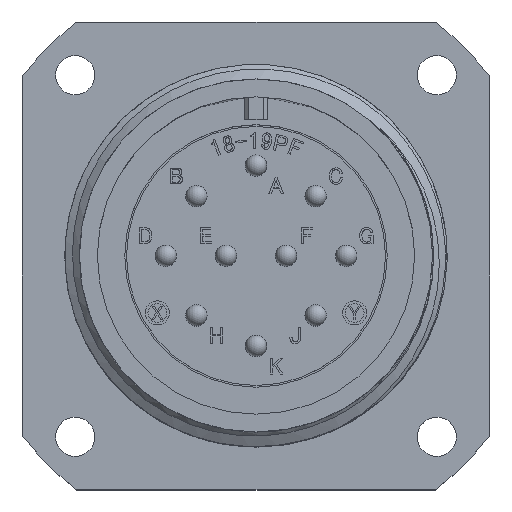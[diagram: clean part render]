
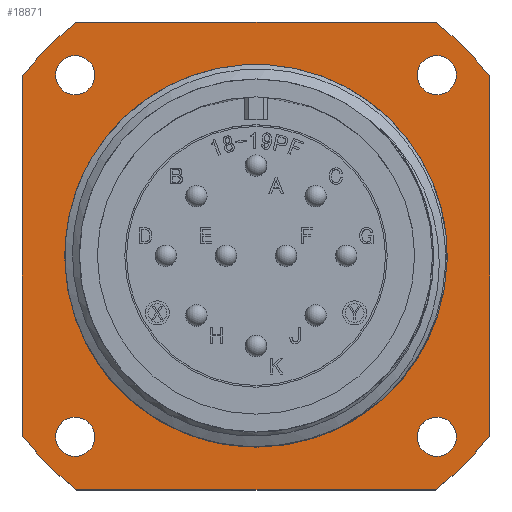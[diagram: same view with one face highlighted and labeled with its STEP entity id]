
A CAD part, top view. The second image highlights one B-rep face of the part: STEP entity #18871.
In plain terms, the highlighted planar face has unit normal (0, 0, 1).
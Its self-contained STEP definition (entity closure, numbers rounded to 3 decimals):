
#661 = CARTESIAN_POINT ( 'NONE',  ( 12.03, 13.495, -19.24 ) ) ;
#695 = CARTESIAN_POINT ( 'NONE',  ( 13.495, -13.495, -19.24 ) ) ;
#822 = FACE_BOUND ( 'NONE', #35567, .T. ) ;
#1063 = ORIENTED_EDGE ( 'NONE', *, *, #12026, .F. ) ;
#1069 = CARTESIAN_POINT ( 'NONE',  ( 0., 0., -19.24 ) ) ;
#1944 = CARTESIAN_POINT ( 'NONE',  ( 0., 0., -19.24 ) ) ;
#2231 = CIRCLE ( 'NONE', #27448, 1.465 ) ;
#2474 = CIRCLE ( 'NONE', #6882, 1.465 ) ;
#2515 = CIRCLE ( 'NONE', #18846, 1.465 ) ;
#2739 = CARTESIAN_POINT ( 'NONE',  ( 13.385, -17.46, -19.24 ) ) ;
#2758 = DIRECTION ( 'NONE',  ( 1., 0., 0. ) ) ;
#2976 = VERTEX_POINT ( 'NONE', #25915 ) ;
#2990 = VERTEX_POINT ( 'NONE', #16176 ) ;
#3026 = FACE_BOUND ( 'NONE', #32148, .T. ) ;
#3232 = VERTEX_POINT ( 'NONE', #18181 ) ;
#3540 = LINE ( 'NONE', #35804, #27581 ) ;
#3562 = DIRECTION ( 'NONE',  ( 1., 0., 0. ) ) ;
#4293 = VERTEX_POINT ( 'NONE', #2739 ) ;
#4413 = ORIENTED_EDGE ( 'NONE', *, *, #30229, .F. ) ;
#4986 = ORIENTED_EDGE ( 'NONE', *, *, #20289, .T. ) ;
#6519 = VERTEX_POINT ( 'NONE', #17675 ) ;
#6675 = DIRECTION ( 'NONE',  ( 1., 0., 0. ) ) ;
#6882 = AXIS2_PLACEMENT_3D ( 'NONE', #8809, #20130, #17495 ) ;
#7449 = FACE_BOUND ( 'NONE', #17752, .T. ) ;
#7787 = ORIENTED_EDGE ( 'NONE', *, *, #18131, .T. ) ;
#7806 = ORIENTED_EDGE ( 'NONE', *, *, #18384, .F. ) ;
#7882 = EDGE_LOOP ( 'NONE', ( #1063 ) ) ;
#8627 = ORIENTED_EDGE ( 'NONE', *, *, #22675, .T. ) ;
#8809 = CARTESIAN_POINT ( 'NONE',  ( -13.495, -13.495, -19.24 ) ) ;
#9042 = AXIS2_PLACEMENT_3D ( 'NONE', #17563, #17937, #14943 ) ;
#9161 = LINE ( 'NONE', #31885, #15812 ) ;
#11048 = EDGE_CURVE ( 'NONE', #3232, #28213, #19878, .T. ) ;
#11070 = ORIENTED_EDGE ( 'NONE', *, *, #11048, .T. ) ;
#11218 = CARTESIAN_POINT ( 'NONE',  ( -13.385, 17.46, -19.24 ) ) ;
#11675 = CIRCLE ( 'NONE', #23589, 22. ) ;
#11980 = VECTOR ( 'NONE', #21088, 1000. ) ;
#12026 = EDGE_CURVE ( 'NONE', #34057, #34057, #2474, .T. ) ;
#12219 = CARTESIAN_POINT ( 'NONE',  ( 17.46, 13.385, -19.24 ) ) ;
#12349 = DIRECTION ( 'NONE',  ( 1., 0., 0. ) ) ;
#12425 = AXIS2_PLACEMENT_3D ( 'NONE', #1944, #33112, #30653 ) ;
#12703 = VERTEX_POINT ( 'NONE', #661 ) ;
#13097 = ORIENTED_EDGE ( 'NONE', *, *, #27251, .T. ) ;
#13158 = CIRCLE ( 'NONE', #34369, 22. ) ;
#13486 = DIRECTION ( 'NONE',  ( 0., 0., 1. ) ) ;
#13869 = CARTESIAN_POINT ( 'NONE',  ( -13.495, 13.495, -19.24 ) ) ;
#14174 = LINE ( 'NONE', #12219, #11980 ) ;
#14251 = CARTESIAN_POINT ( 'NONE',  ( -17.46, -13.385, -19.24 ) ) ;
#14405 = CARTESIAN_POINT ( 'NONE',  ( -14.96, -13.495, -19.24 ) ) ;
#14838 = CARTESIAN_POINT ( 'NONE',  ( 0., 0., -19.24 ) ) ;
#14858 = DIRECTION ( 'NONE',  ( -1., 0., 0. ) ) ;
#14943 = DIRECTION ( 'NONE',  ( 1., 0., 0. ) ) ;
#15026 = EDGE_CURVE ( 'NONE', #4293, #20620, #11675, .T. ) ;
#15072 = PLANE ( 'NONE',  #9042 ) ;
#15812 = VECTOR ( 'NONE', #17710, 1000. ) ;
#16100 = VERTEX_POINT ( 'NONE', #18005 ) ;
#16176 = CARTESIAN_POINT ( 'NONE',  ( -13.385, -17.46, -19.24 ) ) ;
#16316 = DIRECTION ( 'NONE',  ( 0., 0., 1. ) ) ;
#17495 = DIRECTION ( 'NONE',  ( -1., 0., 0. ) ) ;
#17563 = CARTESIAN_POINT ( 'NONE',  ( 0., 0., -19.24 ) ) ;
#17675 = CARTESIAN_POINT ( 'NONE',  ( 14.96, -13.495, -19.24 ) ) ;
#17710 = DIRECTION ( 'NONE',  ( 1., 0., 0. ) ) ;
#17752 = EDGE_LOOP ( 'NONE', ( #4413 ) ) ;
#17937 = DIRECTION ( 'NONE',  ( 0., 0., 1. ) ) ;
#18005 = CARTESIAN_POINT ( 'NONE',  ( -17.46, 13.385, -19.24 ) ) ;
#18062 = ORIENTED_EDGE ( 'NONE', *, *, #15026, .T. ) ;
#18131 = EDGE_CURVE ( 'NONE', #29549, #2990, #20455, .T. ) ;
#18181 = CARTESIAN_POINT ( 'NONE',  ( 13.385, 17.46, -19.24 ) ) ;
#18384 = EDGE_CURVE ( 'NONE', #12703, #12703, #2231, .T. ) ;
#18846 = AXIS2_PLACEMENT_3D ( 'NONE', #695, #20583, #3562 ) ;
#18871 = ADVANCED_FACE ( 'NONE', ( #7449, #28388, #33233, #822, #3026, #31037 ), #15072, .T. ) ;
#19134 = ORIENTED_EDGE ( 'NONE', *, *, #20280, .F. ) ;
#19594 = CARTESIAN_POINT ( 'NONE',  ( 17.46, 13.385, -19.24 ) ) ;
#19878 = LINE ( 'NONE', #11218, #35849 ) ;
#20130 = DIRECTION ( 'NONE',  ( 0., 0., 1. ) ) ;
#20258 = EDGE_LOOP ( 'NONE', ( #8627, #33319, #7787, #4986, #18062, #13097, #25212, #11070 ) ) ;
#20280 = EDGE_CURVE ( 'NONE', #6519, #6519, #2515, .T. ) ;
#20289 = EDGE_CURVE ( 'NONE', #2990, #4293, #9161, .T. ) ;
#20455 = CIRCLE ( 'NONE', #32630, 22. ) ;
#20483 = DIRECTION ( 'NONE',  ( 0., 0., 1. ) ) ;
#20583 = DIRECTION ( 'NONE',  ( 0., 0., 1. ) ) ;
#20620 = VERTEX_POINT ( 'NONE', #33210 ) ;
#20623 = DIRECTION ( 'NONE',  ( 0., 0., 1. ) ) ;
#21088 = DIRECTION ( 'NONE',  ( 0., 1., 0. ) ) ;
#21862 = EDGE_CURVE ( 'NONE', #25686, #3232, #13158, .T. ) ;
#21930 = AXIS2_PLACEMENT_3D ( 'NONE', #13869, #25502, #2758 ) ;
#22675 = EDGE_CURVE ( 'NONE', #28213, #16100, #23798, .T. ) ;
#23084 = ORIENTED_EDGE ( 'NONE', *, *, #32423, .F. ) ;
#23422 = EDGE_LOOP ( 'NONE', ( #19134 ) ) ;
#23589 = AXIS2_PLACEMENT_3D ( 'NONE', #33499, #13486, #27605 ) ;
#23798 = CIRCLE ( 'NONE', #12425, 22. ) ;
#24832 = CARTESIAN_POINT ( 'NONE',  ( 0., 0., -19.24 ) ) ;
#25212 = ORIENTED_EDGE ( 'NONE', *, *, #21862, .T. ) ;
#25502 = DIRECTION ( 'NONE',  ( 0., 0., 1. ) ) ;
#25686 = VERTEX_POINT ( 'NONE', #19594 ) ;
#25915 = CARTESIAN_POINT ( 'NONE',  ( 14.265, 0., -19.24 ) ) ;
#27251 = EDGE_CURVE ( 'NONE', #20620, #25686, #14174, .T. ) ;
#27448 = AXIS2_PLACEMENT_3D ( 'NONE', #34745, #20623, #14858 ) ;
#27581 = VECTOR ( 'NONE', #33080, 1000. ) ;
#27590 = EDGE_CURVE ( 'NONE', #16100, #29549, #3540, .T. ) ;
#27605 = DIRECTION ( 'NONE',  ( 1., 0., 0. ) ) ;
#27732 = CARTESIAN_POINT ( 'NONE',  ( -13.385, 17.46, -19.24 ) ) ;
#28213 = VERTEX_POINT ( 'NONE', #27732 ) ;
#28388 = FACE_BOUND ( 'NONE', #23422, .T. ) ;
#29428 = DIRECTION ( 'NONE',  ( 0., 0., 1. ) ) ;
#29549 = VERTEX_POINT ( 'NONE', #14251 ) ;
#29956 = CIRCLE ( 'NONE', #31672, 14.265 ) ;
#30040 = DIRECTION ( 'NONE',  ( 1., 0., 0. ) ) ;
#30229 = EDGE_CURVE ( 'NONE', #2976, #2976, #29956, .T. ) ;
#30653 = DIRECTION ( 'NONE',  ( 1., 0., 0. ) ) ;
#31037 = FACE_OUTER_BOUND ( 'NONE', #20258, .T. ) ;
#31672 = AXIS2_PLACEMENT_3D ( 'NONE', #14838, #20483, #6675 ) ;
#31725 = CARTESIAN_POINT ( 'NONE',  ( -12.03, 13.495, -19.24 ) ) ;
#31885 = CARTESIAN_POINT ( 'NONE',  ( -13.385, -17.46, -19.24 ) ) ;
#32148 = EDGE_LOOP ( 'NONE', ( #23084 ) ) ;
#32423 = EDGE_CURVE ( 'NONE', #35375, #35375, #32924, .T. ) ;
#32630 = AXIS2_PLACEMENT_3D ( 'NONE', #24832, #16316, #30040 ) ;
#32924 = CIRCLE ( 'NONE', #21930, 1.465 ) ;
#33080 = DIRECTION ( 'NONE',  ( 0., -1., 0. ) ) ;
#33112 = DIRECTION ( 'NONE',  ( 0., 0., 1. ) ) ;
#33210 = CARTESIAN_POINT ( 'NONE',  ( 17.46, -13.385, -19.24 ) ) ;
#33233 = FACE_BOUND ( 'NONE', #7882, .T. ) ;
#33319 = ORIENTED_EDGE ( 'NONE', *, *, #27590, .T. ) ;
#33499 = CARTESIAN_POINT ( 'NONE',  ( 0., 0., -19.24 ) ) ;
#34057 = VERTEX_POINT ( 'NONE', #14405 ) ;
#34225 = DIRECTION ( 'NONE',  ( -1., 0., 0. ) ) ;
#34369 = AXIS2_PLACEMENT_3D ( 'NONE', #1069, #29428, #12349 ) ;
#34745 = CARTESIAN_POINT ( 'NONE',  ( 13.495, 13.495, -19.24 ) ) ;
#35375 = VERTEX_POINT ( 'NONE', #31725 ) ;
#35567 = EDGE_LOOP ( 'NONE', ( #7806 ) ) ;
#35804 = CARTESIAN_POINT ( 'NONE',  ( -17.46, 13.385, -19.24 ) ) ;
#35849 = VECTOR ( 'NONE', #34225, 1000. ) ;
